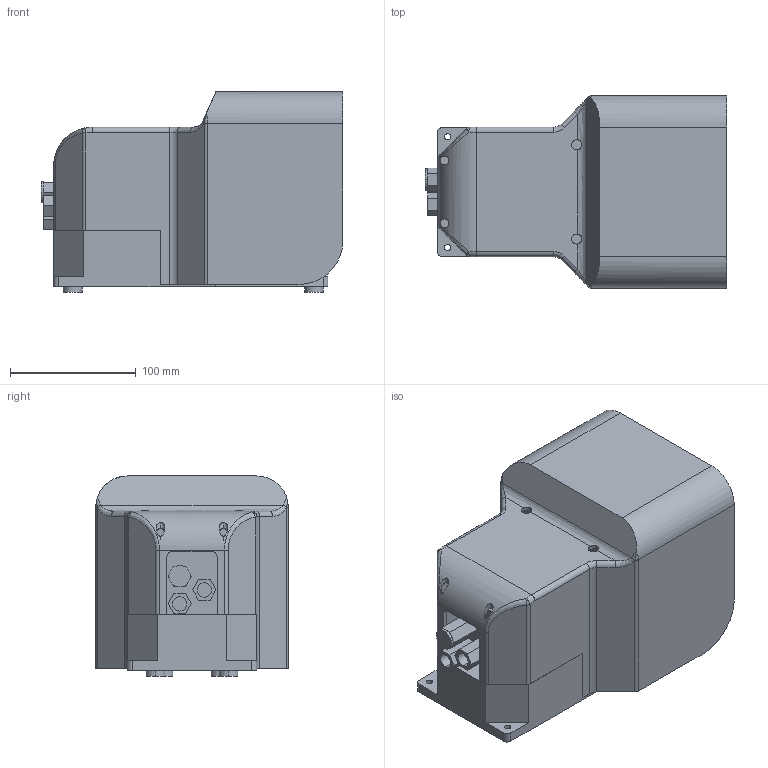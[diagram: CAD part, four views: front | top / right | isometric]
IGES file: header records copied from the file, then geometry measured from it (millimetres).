
Global section: file name: No Iges File Name specified; native system: AutoDesk Inventor R11.0; preprocessor: AutoDesk Inventor Iges Exporter R11.0; author: No Author specified; organization: No Organization specified; date: 20061219.113506; units: millimetre
Bounding box: 240 x 153 x 159 mm (x, y, z)
Volume: 1070330 mm3; surface area: 302755.3 mm2
Topology: 2 solids, 3 shells, 238 faces, 626 edges, 400 vertices
Faces by surface type: plane 128, cylinder 42, bspline 32, revolution 30, torus 4, sphere 2
